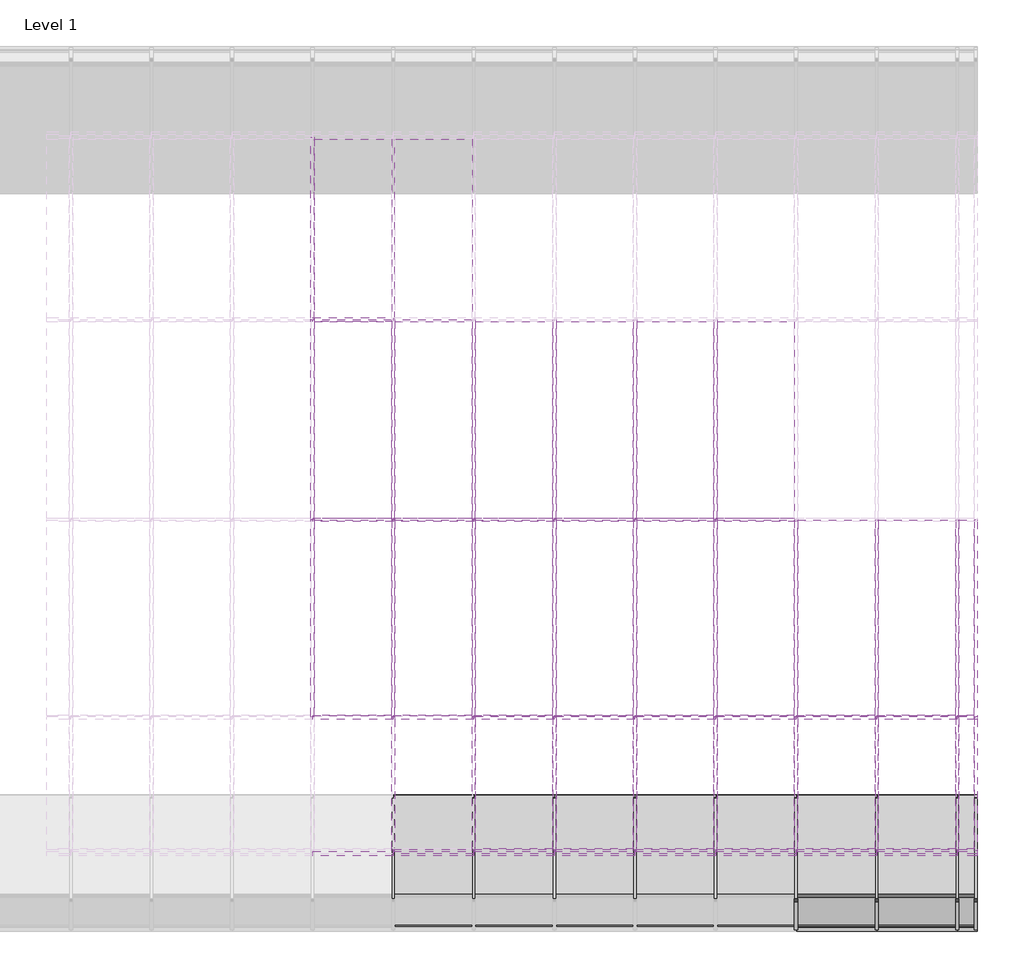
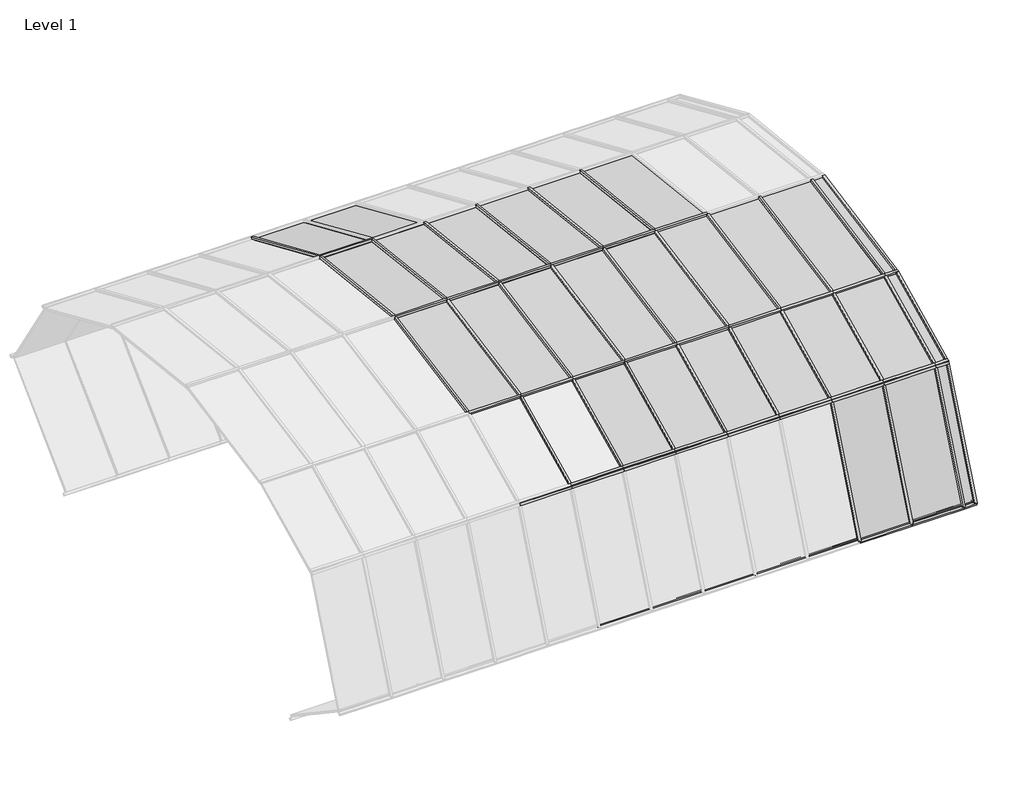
# One storey, part 21 of 23: 83 members, 35 plates.
"""IFC4 building model written with IfcOpenShell, lengths in millimetres."""

from ifc_helpers import new_model, si_unit, origin, place, context, project, spatial, transform, mapped, element, save
from components import member_68981e21, member_e752087b, member_3e1f1dd8, member_fea202f7, member_0f8f75f6, member_42213d33, member_1ddaab60, member_88d46f17, member_14e241b9, member_67cfadff, member_309acb9e, member_1d69e541, member_934386c6, system_panel_glazed_51f493bd, system_panel_glazed_6e806f8e, system_panel_glazed_a1f64e1d, system_panel_glazed_8cafdc8f, system_panel_glazed_3c61d676, system_panel_glazed_a617cdeb, system_panel_glazed_3957fabc, system_panel_glazed_e36701dd

model = new_model("IFC4")

# Units and contexts
model_context = context("Model", 3, world=origin())
ifc_project = project(units=[si_unit("LENGTHUNIT", "METRE", prefix="MILLI")], contexts=[model_context])

# Site, building, storey
site = spatial("IfcSite", under=ifc_project)
building = spatial("IfcBuilding", under=site)
storey = spatial("IfcBuildingStorey", under=building, Name="Level 1", Elevation=0.0)

# Members
placement = place(None, origin())
member_shape = member_68981e21(model_context)
element("IfcMember", 1, ObjectType="Rectangular Mullion : 1\" Square", at=placement, inside=storey, context=model_context, shape_type="MappedRepresentation", body=[
    mapped(member_shape, transform((1059.8500186, 2539.8807303, 0.0), x_axis=(0.0, 0.8307182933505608, -0.5566930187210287), y_axis=(0.0, -0.5566930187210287, -0.8307182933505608), z_axis=(-1.0, 0.0, 0.0))),
])
element("IfcMember", 2, ObjectType="Rectangular Mullion : 1\" Square", at=placement, inside=storey, context=model_context, shape_type="MappedRepresentation", body=[
    mapped(member_shape, transform((1669.4500186, 2539.8807303, 0.0), x_axis=(0.0, 0.8307182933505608, -0.5566930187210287), y_axis=(0.0, -0.5566930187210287, -0.8307182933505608), z_axis=(-1.0, 0.0, 0.0))),
])
element("IfcMember", 3, ObjectType="Rectangular Mullion : 1\" Square", at=placement, inside=storey, context=model_context, shape_type="MappedRepresentation", body=[
    mapped(member_shape, transform((2279.0500186, 2539.8807303, 0.0), x_axis=(0.0, 0.8307182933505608, -0.5566930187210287), y_axis=(0.0, -0.5566930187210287, -0.8307182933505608), z_axis=(-1.0, 0.0, 0.0))),
])
element("IfcMember", 4, ObjectType="Rectangular Mullion : 1\" Square", at=placement, inside=storey, context=model_context, shape_type="MappedRepresentation", body=[
    mapped(member_shape, transform((2888.6500186, 2539.8807303, 0.0), x_axis=(0.0, 0.8307182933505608, -0.5566930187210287), y_axis=(0.0, -0.5566930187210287, -0.8307182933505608), z_axis=(-1.0, 0.0, 0.0))),
])
element("IfcMember", 5, ObjectType="Rectangular Mullion : 1\" Square", at=placement, inside=storey, context=model_context, shape_type="MappedRepresentation", body=[
    mapped(member_shape, transform((3498.2500186, 2539.8807303, 0.0), x_axis=(0.0, 0.8307182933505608, -0.5566930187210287), y_axis=(0.0, -0.5566930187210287, -0.8307182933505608), z_axis=(-1.0, 0.0, 0.0))),
])
element("IfcMember", 6, ObjectType="Rectangular Mullion : 1\" Square", at=placement, inside=storey, context=model_context, shape_type="MappedRepresentation", body=[
    mapped(member_shape, transform((4107.8500186, 2539.8807303, 0.0), x_axis=(0.0, 0.8307182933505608, -0.5566930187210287), y_axis=(0.0, -0.5566930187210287, -0.8307182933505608), z_axis=(-1.0, 0.0, 0.0))),
])
element("IfcMember", 7, ObjectType="Rectangular Mullion : 1\" Square", at=placement, inside=storey, context=model_context, shape_type="MappedRepresentation", body=[
    mapped(member_shape, transform((4717.4500186, 2539.8807303, 0.0), x_axis=(0.0, 0.8307182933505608, -0.5566930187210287), y_axis=(0.0, -0.5566930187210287, -0.8307182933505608), z_axis=(-1.0, 0.0, 0.0))),
])
element("IfcMember", 8, ObjectType="Rectangular Mullion : 1\" Square", at=placement, inside=storey, context=model_context, shape_type="MappedRepresentation", body=[
    mapped(member_shape, transform((1059.8500186, 2108.5088854, 2085.6089632), x_axis=(0.0, -0.9009025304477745, -0.43402146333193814), y_axis=(0.0, -0.43402146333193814, 0.9009025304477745), z_axis=(-1.0, 0.0, 0.0))),
])
element("IfcMember", 9, ObjectType="Rectangular Mullion : 1\" Square", at=placement, inside=storey, context=model_context, shape_type="MappedRepresentation", body=[
    mapped(member_shape, transform((1669.4500186, 2108.5088854, 2085.6089632), x_axis=(0.0, -0.9009025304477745, -0.43402146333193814), y_axis=(0.0, -0.43402146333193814, 0.9009025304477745), z_axis=(-1.0, 0.0, 0.0))),
])
element("IfcMember", 10, ObjectType="Rectangular Mullion : 1\" Square", at=placement, inside=storey, context=model_context, shape_type="MappedRepresentation", body=[
    mapped(member_shape, transform((2279.0500186, 2108.5088854, 2085.6089632), x_axis=(0.0, -0.9009025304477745, -0.43402146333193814), y_axis=(0.0, -0.43402146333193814, 0.9009025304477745), z_axis=(-1.0, 0.0, 0.0))),
])
element("IfcMember", 11, ObjectType="Rectangular Mullion : 1\" Square", at=placement, inside=storey, context=model_context, shape_type="MappedRepresentation", body=[
    mapped(member_shape, transform((2888.6500186, 2108.5088854, 2085.6089632), x_axis=(0.0, -0.9009025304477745, -0.43402146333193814), y_axis=(0.0, -0.43402146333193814, 0.9009025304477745), z_axis=(-1.0, 0.0, 0.0))),
])
element("IfcMember", 12, ObjectType="Rectangular Mullion : 1\" Square", at=placement, inside=storey, context=model_context, shape_type="MappedRepresentation", body=[
    mapped(member_shape, transform((3498.2500186, 2108.5088854, 2085.6089632), x_axis=(0.0, -0.9009025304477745, -0.43402146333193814), y_axis=(0.0, -0.43402146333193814, 0.9009025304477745), z_axis=(-1.0, 0.0, 0.0))),
])
element("IfcMember", 13, ObjectType="Rectangular Mullion : 1\" Square", at=placement, inside=storey, context=model_context, shape_type="MappedRepresentation", body=[
    mapped(member_shape, transform((4107.8500186, 2108.5088854, 2085.6089632), x_axis=(0.0, -0.9009025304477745, -0.43402146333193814), y_axis=(0.0, -0.43402146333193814, 0.9009025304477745), z_axis=(-1.0, 0.0, 0.0))),
])
element("IfcMember", 14, ObjectType="Rectangular Mullion : 1\" Square", at=placement, inside=storey, context=model_context, shape_type="MappedRepresentation", body=[
    mapped(member_shape, transform((4717.4500186, 2108.5088854, 2085.6089632), x_axis=(0.0, -0.9009025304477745, -0.43402146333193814), y_axis=(0.0, -0.43402146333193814, 0.9009025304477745), z_axis=(-1.0, 0.0, 0.0))),
])
member_2_shape = member_e752087b(model_context)
element("IfcMember", 15, ObjectType="Rectangular Mullion : 1\" Square", at=placement, inside=storey, context=model_context, shape_type="MappedRepresentation", body=[
    mapped(member_2_shape, transform((5327.0500186, 2539.8807303, 0.0), x_axis=(0.0, 0.8307182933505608, -0.5566930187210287), y_axis=(0.0, -0.5566930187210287, -0.8307182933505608), z_axis=(-1.0, 0.0, 0.0))),
])
element("IfcMember", 16, ObjectType="Rectangular Mullion : 1\" Square", at=placement, inside=storey, context=model_context, shape_type="MappedRepresentation", body=[
    mapped(member_2_shape, transform((5327.0500186, 2108.5088854, 2085.6089632), x_axis=(0.0, -0.9009025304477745, -0.43402146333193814), y_axis=(0.0, -0.43402146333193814, 0.9009025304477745), z_axis=(-1.0, 0.0, 0.0))),
])
member_3_shape = member_3e1f1dd8(model_context)
element("IfcMember", 17, ObjectType="Rectangular Mullion : 1\" Square", at=placement, inside=storey, context=model_context, shape_type="MappedRepresentation", body=[
    mapped(member_3_shape, transform((4107.8500186, 1534.1192339, 673.9955146), x_axis=(0.0, 0.38018576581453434, -0.9249101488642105), y_axis=(0.0, -0.9249101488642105, -0.38018576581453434), z_axis=(-1.0, 0.0, 0.0))),
])
element("IfcMember", 18, ObjectType="Rectangular Mullion : 1\" Square", at=placement, inside=storey, context=model_context, shape_type="MappedRepresentation", body=[
    mapped(member_3_shape, transform((4717.4500186, 1534.1192339, 673.9955146), x_axis=(0.0, 0.38018576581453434, -0.9249101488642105), y_axis=(0.0, -0.9249101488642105, -0.38018576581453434), z_axis=(-1.0, 0.0, 0.0))),
])
element("IfcMember", 19, ObjectType="Rectangular Mullion : 1\" Square", at=placement, inside=storey, context=model_context, shape_type="MappedRepresentation", body=[
    mapped(member_3_shape, transform((450.2500186, 4631.6132499, 2864.1651971), x_axis=(0.0, -0.9992773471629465, -0.038010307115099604), y_axis=(0.0, -0.038010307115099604, 0.9992773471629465), z_axis=(-1.0, 0.0, 0.0))),
])
element("IfcMember", 20, ObjectType="Rectangular Mullion : 1\" Square", at=placement, inside=storey, context=model_context, shape_type="MappedRepresentation", body=[
    mapped(member_3_shape, transform((1059.8500186, 4631.6132499, 2864.1651971), x_axis=(0.0, -0.9992773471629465, -0.038010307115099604), y_axis=(0.0, -0.038010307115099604, 0.9992773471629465), z_axis=(-1.0, 0.0, 0.0))),
])
element("IfcMember", 21, ObjectType="Rectangular Mullion : 1\" Square", at=placement, inside=storey, context=model_context, shape_type="MappedRepresentation", body=[
    mapped(member_3_shape, transform((1669.4500186, 4631.6132499, 2864.1651971), x_axis=(0.0, -0.9992773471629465, -0.038010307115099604), y_axis=(0.0, -0.038010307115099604, 0.9992773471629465), z_axis=(-1.0, 0.0, 0.0))),
])
element("IfcMember", 22, ObjectType="Rectangular Mullion : 1\" Square", at=placement, inside=storey, context=model_context, shape_type="MappedRepresentation", body=[
    mapped(member_3_shape, transform((2279.0500186, 4631.6132499, 2864.1651971), x_axis=(0.0, -0.9992773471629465, -0.038010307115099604), y_axis=(0.0, -0.038010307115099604, 0.9992773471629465), z_axis=(-1.0, 0.0, 0.0))),
])
element("IfcMember", 23, ObjectType="Rectangular Mullion : 1\" Square", at=placement, inside=storey, context=model_context, shape_type="MappedRepresentation", body=[
    mapped(member_3_shape, transform((2888.6500186, 4631.6132499, 2864.1651971), x_axis=(0.0, -0.9992773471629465, -0.038010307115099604), y_axis=(0.0, -0.038010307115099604, 0.9992773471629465), z_axis=(-1.0, 0.0, 0.0))),
])
element("IfcMember", 24, ObjectType="Rectangular Mullion : 1\" Square", at=placement, inside=storey, context=model_context, shape_type="MappedRepresentation", body=[
    mapped(member_3_shape, transform((3498.2500186, 4631.6132499, 2864.1651971), x_axis=(0.0, -0.9992773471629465, -0.038010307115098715), y_axis=(0.0, -0.038010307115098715, 0.9992773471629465), z_axis=(-1.0, 0.0, 0.0))),
])
element("IfcMember", 25, ObjectType="Rectangular Mullion : 1\" Square", at=placement, inside=storey, context=model_context, shape_type="MappedRepresentation", body=[
    mapped(member_3_shape, transform((450.2500186, 3134.3722562, 2579.8319299), x_axis=(0.0, -0.9436447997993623, -0.3309599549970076), y_axis=(0.0, -0.3309599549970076, 0.9436447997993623), z_axis=(-1.0, 0.0, 0.0))),
])
element("IfcMember", 26, ObjectType="Rectangular Mullion : 1\" Square", at=placement, inside=storey, context=model_context, shape_type="MappedRepresentation", body=[
    mapped(member_3_shape, transform((1059.8500186, 3134.3722562, 2579.8319299), x_axis=(0.0, -0.9436447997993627, -0.33095995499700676), y_axis=(0.0, -0.33095995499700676, 0.9436447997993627), z_axis=(-1.0, 0.0, 0.0))),
])
element("IfcMember", 27, ObjectType="Rectangular Mullion : 1\" Square", at=placement, inside=storey, context=model_context, shape_type="MappedRepresentation", body=[
    mapped(member_3_shape, transform((1669.4500186, 3134.3722562, 2579.8319299), x_axis=(0.0, -0.9436447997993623, -0.3309599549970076), y_axis=(0.0, -0.3309599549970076, 0.9436447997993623), z_axis=(-1.0, 0.0, 0.0))),
])
element("IfcMember", 28, ObjectType="Rectangular Mullion : 1\" Square", at=placement, inside=storey, context=model_context, shape_type="MappedRepresentation", body=[
    mapped(member_3_shape, transform((2279.0500186, 3134.3722562, 2579.8319299), x_axis=(0.0, -0.9436447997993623, -0.3309599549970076), y_axis=(0.0, -0.3309599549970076, 0.9436447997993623), z_axis=(-1.0, 0.0, 0.0))),
])
element("IfcMember", 29, ObjectType="Rectangular Mullion : 1\" Square", at=placement, inside=storey, context=model_context, shape_type="MappedRepresentation", body=[
    mapped(member_3_shape, transform((2888.6500186, 3134.3722562, 2579.8319299), x_axis=(0.0, -0.9436447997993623, -0.3309599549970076), y_axis=(0.0, -0.3309599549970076, 0.9436447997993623), z_axis=(-1.0, 0.0, 0.0))),
])
element("IfcMember", 30, ObjectType="Rectangular Mullion : 1\" Square", at=placement, inside=storey, context=model_context, shape_type="MappedRepresentation", body=[
    mapped(member_3_shape, transform((3498.2500186, 3134.3722562, 2579.8319299), x_axis=(0.0, -0.9436447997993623, -0.3309599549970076), y_axis=(0.0, -0.3309599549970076, 0.9436447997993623), z_axis=(-1.0, 0.0, 0.0))),
])
element("IfcMember", 31, ObjectType="Rectangular Mullion : 1\" Square", at=placement, inside=storey, context=model_context, shape_type="MappedRepresentation", body=[
    mapped(member_3_shape, transform((4107.8500186, 3134.3722562, 2579.8319299), x_axis=(0.0, -0.9436447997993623, -0.3309599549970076), y_axis=(0.0, -0.3309599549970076, 0.9436447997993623), z_axis=(-1.0, 0.0, 0.0))),
])
element("IfcMember", 32, ObjectType="Rectangular Mullion : 1\" Square", at=placement, inside=storey, context=model_context, shape_type="MappedRepresentation", body=[
    mapped(member_3_shape, transform((4717.4500186, 3134.3722562, 2579.8319299), x_axis=(0.0, -0.9436447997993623, -0.3309599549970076), y_axis=(0.0, -0.3309599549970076, 0.9436447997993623), z_axis=(-1.0, 0.0, 0.0))),
])
member_4_shape = member_fea202f7(model_context)
element("IfcMember", 33, ObjectType="Rectangular Mullion : 1\" Square", at=placement, inside=storey, context=model_context, shape_type="MappedRepresentation", body=[
    mapped(member_4_shape, transform((5327.0500186, 1534.1192339, 673.9955146), x_axis=(0.0, 0.38018576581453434, -0.9249101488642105), y_axis=(0.0, -0.9249101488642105, -0.38018576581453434), z_axis=(-1.0, 0.0, 0.0))),
])
element("IfcMember", 34, ObjectType="Rectangular Mullion : 1\" Square", at=placement, inside=storey, context=model_context, shape_type="MappedRepresentation", body=[
    mapped(member_4_shape, transform((5327.0500186, 3134.3722562, 2579.8319299), x_axis=(0.0, -0.9436447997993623, -0.3309599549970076), y_axis=(0.0, -0.3309599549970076, 0.9436447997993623), z_axis=(-1.0, 0.0, 0.0))),
])
element("IfcMember", 35, ObjectType="Rectangular Mullion : 1\" Square", at=placement, inside=storey, context=model_context, shape_type="MappedRepresentation", body=[
    mapped(member_2_shape, transform((5479.4500186, 2108.5088854, 2085.6089632), x_axis=(0.0, 0.37689609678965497, 0.9262555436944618), y_axis=(0.0, -0.9262555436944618, 0.37689609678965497), z_axis=(1.0, 0.0, 0.0))),
])
element("IfcMember", 36, ObjectType="Rectangular Mullion : 1\" Square", at=placement, inside=storey, context=model_context, shape_type="MappedRepresentation", body=[
    mapped(member_shape, transform((1059.8500186, 2108.5088854, 2085.6089632), x_axis=(0.0, 0.3768960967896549, 0.9262555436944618), y_axis=(0.0, -0.9262555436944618, 0.3768960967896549), z_axis=(1.0, 0.0, 0.0))),
])
element("IfcMember", 37, ObjectType="Rectangular Mullion : 1\" Square", at=placement, inside=storey, context=model_context, shape_type="MappedRepresentation", body=[
    mapped(member_shape, transform((1669.4500186, 2108.5088854, 2085.6089632), x_axis=(0.0, 0.3768960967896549, 0.9262555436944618), y_axis=(0.0, -0.9262555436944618, 0.3768960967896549), z_axis=(1.0, 0.0, 0.0))),
])
element("IfcMember", 38, ObjectType="Rectangular Mullion : 1\" Square", at=placement, inside=storey, context=model_context, shape_type="MappedRepresentation", body=[
    mapped(member_shape, transform((2279.0500186, 2108.5088854, 2085.6089632), x_axis=(0.0, 0.3768960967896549, 0.9262555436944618), y_axis=(0.0, -0.9262555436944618, 0.3768960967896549), z_axis=(1.0, 0.0, 0.0))),
])
element("IfcMember", 39, ObjectType="Rectangular Mullion : 1\" Square", at=placement, inside=storey, context=model_context, shape_type="MappedRepresentation", body=[
    mapped(member_shape, transform((2888.6500186, 2108.5088854, 2085.6089632), x_axis=(0.0, 0.3768960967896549, 0.9262555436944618), y_axis=(0.0, -0.9262555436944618, 0.3768960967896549), z_axis=(1.0, 0.0, 0.0))),
])
element("IfcMember", 40, ObjectType="Rectangular Mullion : 1\" Square", at=placement, inside=storey, context=model_context, shape_type="MappedRepresentation", body=[
    mapped(member_shape, transform((3498.2500186, 2108.5088854, 2085.6089632), x_axis=(0.0, 0.3768960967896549, 0.9262555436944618), y_axis=(0.0, -0.9262555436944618, 0.3768960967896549), z_axis=(1.0, 0.0, 0.0))),
])
element("IfcMember", 41, ObjectType="Rectangular Mullion : 1\" Square", at=placement, inside=storey, context=model_context, shape_type="MappedRepresentation", body=[
    mapped(member_shape, transform((4107.8500186, 2108.5088854, 2085.6089632), x_axis=(0.0, 0.3768960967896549, 0.9262555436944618), y_axis=(0.0, -0.9262555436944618, 0.3768960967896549), z_axis=(1.0, 0.0, 0.0))),
])
element("IfcMember", 42, ObjectType="Rectangular Mullion : 1\" Square", at=placement, inside=storey, context=model_context, shape_type="MappedRepresentation", body=[
    mapped(member_shape, transform((4717.4500186, 2108.5088854, 2085.6089632), x_axis=(0.0, 0.3768960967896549, 0.9262555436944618), y_axis=(0.0, -0.9262555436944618, 0.3768960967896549), z_axis=(1.0, 0.0, 0.0))),
])
element("IfcMember", 43, ObjectType="Rectangular Mullion : 1\" Square", at=placement, inside=storey, context=model_context, shape_type="MappedRepresentation", body=[
    mapped(member_shape, transform((5327.0500186, 2108.5088854, 2085.6089632), x_axis=(0.0, 0.3768960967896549, 0.9262555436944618), y_axis=(0.0, -0.9262555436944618, 0.3768960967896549), z_axis=(1.0, 0.0, 0.0))),
])
element("IfcMember", 44, ObjectType="Rectangular Mullion : 1\" Square", at=placement, inside=storey, context=model_context, shape_type="MappedRepresentation", body=[
    mapped(member_3_shape, transform((450.2500186, 6146.1274349, 2694.3924567), x_axis=(0.0, -0.9660596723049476, 0.258319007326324), y_axis=(0.0, 0.258319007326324, 0.9660596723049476), z_axis=(-1.0, 0.0, 0.0))),
])
member_5_shape = member_0f8f75f6(model_context)
element("IfcMember", 45, ObjectType="Rectangular Mullion : 1\" Square", at=placement, inside=storey, context=model_context, shape_type="MappedRepresentation", body=[
    mapped(member_5_shape, transform((1059.8500186, 2518.7804857, 14.1400027), x_axis=(1.0, 0.0, 0.0), y_axis=(0.0, -0.5566930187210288, -0.8307182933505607), z_axis=(0.0, 0.8307182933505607, -0.5566930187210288))),
])
element("IfcMember", 46, ObjectType="Rectangular Mullion : 1\" Square", at=placement, inside=storey, context=model_context, shape_type="MappedRepresentation", body=[
    mapped(member_5_shape, transform((1669.4500186, 2518.7804857, 14.1400027), x_axis=(1.0, 0.0, 0.0), y_axis=(0.0, -0.5566930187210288, -0.8307182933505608), z_axis=(0.0, 0.8307182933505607, -0.5566930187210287))),
])
element("IfcMember", 47, ObjectType="Rectangular Mullion : 1\" Square", at=placement, inside=storey, context=model_context, shape_type="MappedRepresentation", body=[
    mapped(member_5_shape, transform((2279.0500186, 2518.7804857, 14.1400027), x_axis=(1.0, 0.0, 0.0), y_axis=(0.0, -0.5566930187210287, -0.8307182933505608), z_axis=(0.0, 0.8307182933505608, -0.5566930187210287))),
])
element("IfcMember", 48, ObjectType="Rectangular Mullion : 1\" Square", at=placement, inside=storey, context=model_context, shape_type="MappedRepresentation", body=[
    mapped(member_5_shape, transform((2888.6500186, 2518.7804857, 14.1400027), x_axis=(1.0, 0.0, 0.0), y_axis=(0.0, -0.5566930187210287, -0.8307182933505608), z_axis=(0.0, 0.8307182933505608, -0.5566930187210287))),
])
element("IfcMember", 49, ObjectType="Rectangular Mullion : 1\" Square", at=placement, inside=storey, context=model_context, shape_type="MappedRepresentation", body=[
    mapped(member_5_shape, transform((3498.2500186, 2518.7804857, 14.1400027), x_axis=(1.0, 0.0, 0.0), y_axis=(0.0, -0.5566930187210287, -0.8307182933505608), z_axis=(0.0, 0.8307182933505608, -0.5566930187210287))),
])
element("IfcMember", 50, ObjectType="Rectangular Mullion : 1\" Square", at=placement, inside=storey, context=model_context, shape_type="MappedRepresentation", body=[
    mapped(member_5_shape, transform((4107.8500186, 2518.7804857, 14.1400027), x_axis=(1.0, 0.0, 0.0), y_axis=(0.0, -0.5566930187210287, -0.8307182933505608), z_axis=(0.0, 0.8307182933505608, -0.5566930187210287))),
])
element("IfcMember", 51, ObjectType="Rectangular Mullion : 1\" Square", at=placement, inside=storey, context=model_context, shape_type="MappedRepresentation", body=[
    mapped(member_5_shape, transform((4717.4500186, 2518.7804857, 14.1400027), x_axis=(1.0, 0.0, 0.0), y_axis=(0.0, -0.5566930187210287, -0.8307182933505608), z_axis=(0.0, 0.8307182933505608, -0.5566930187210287))),
])
member_6_shape = member_42213d33(model_context)
element("IfcMember", 52, ObjectType="Rectangular Mullion : 1\" Square", at=placement, inside=storey, context=model_context, shape_type="MappedRepresentation", body=[
    mapped(member_6_shape, transform((4107.8500186, 1538.9058143, 685.75896), x_axis=(1.0, 0.0, 0.0), y_axis=(0.0, -0.9262555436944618, 0.376896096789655), z_axis=(0.0, -0.37689609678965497, -0.9262555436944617))),
])
element("IfcMember", 53, ObjectType="Rectangular Mullion : 1\" Square", at=placement, inside=storey, context=model_context, shape_type="MappedRepresentation", body=[
    mapped(member_6_shape, transform((4717.4500186, 1538.9058143, 685.75896), x_axis=(1.0, 0.0, 0.0), y_axis=(0.0, -0.9262555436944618, 0.376896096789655), z_axis=(0.0, -0.37689609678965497, -0.9262555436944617))),
])
member_7_shape = member_1ddaab60(model_context)
element("IfcMember", 54, ObjectType="Rectangular Mullion : 1\" Square", at=placement, inside=storey, context=model_context, shape_type="MappedRepresentation", body=[
    mapped(member_7_shape, transform((5479.4500186, 2518.7804857, 14.1400027), x_axis=(1.0, 0.0, 0.0), y_axis=(0.0, -0.5566930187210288, -0.8307182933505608), z_axis=(0.0, 0.8307182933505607, -0.5566930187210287))),
])
element("IfcMember", 55, ObjectType="Rectangular Mullion : 1\" Square", at=placement, inside=storey, context=model_context, shape_type="MappedRepresentation", body=[
    mapped(member_6_shape, transform((5327.0500186, 1538.9058143, 685.75896), x_axis=(1.0, 0.0, 0.0), y_axis=(0.0, -0.9262555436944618, 0.376896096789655), z_axis=(0.0, -0.37689609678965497, -0.9262555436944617))),
])
element("IfcMember", 56, ObjectType="Rectangular Mullion : 1\" Square", at=placement, inside=storey, context=model_context, shape_type="MappedRepresentation", body=[
    mapped(member_5_shape, transform((5327.0500186, 2518.7804857, 14.1400027), x_axis=(1.0, 0.0, 0.0), y_axis=(0.0, -0.5566930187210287, -0.8307182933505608), z_axis=(0.0, 0.8307182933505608, -0.5566930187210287))),
])
member_8_shape = member_88d46f17(model_context)
element("IfcMember", 57, ObjectType="Rectangular Mullion : 1\" Square", at=placement, inside=storey, context=model_context, shape_type="MappedRepresentation", body=[
    mapped(member_8_shape, transform((5479.4500186, 1538.9058143, 685.75896), x_axis=(1.0, 0.0, 0.0), y_axis=(0.0, -0.9262555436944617, 0.37689609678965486), z_axis=(0.0, -0.37689609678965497, -0.926255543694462))),
])
member_9_shape = member_14e241b9(model_context)
element("IfcMember", 58, ObjectType="Rectangular Mullion : 1\" Square", at=placement, inside=storey, context=model_context, shape_type="MappedRepresentation", body=[
    mapped(member_9_shape, transform((1059.8500186, 2131.3918096, 2096.6331083), x_axis=(1.0, 0.0, 0.0), y_axis=(0.0, -0.4340214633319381, 0.9009025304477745), z_axis=(0.0, -0.9009025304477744, -0.43402146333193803))),
])
element("IfcMember", 59, ObjectType="Rectangular Mullion : 1\" Square", at=placement, inside=storey, context=model_context, shape_type="MappedRepresentation", body=[
    mapped(member_9_shape, transform((1669.4500186, 2131.3918096, 2096.6331083), x_axis=(1.0, 0.0, 0.0), y_axis=(0.0, -0.43402146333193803, 0.9009025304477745), z_axis=(0.0, -0.9009025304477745, -0.43402146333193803))),
])
element("IfcMember", 60, ObjectType="Rectangular Mullion : 1\" Square", at=placement, inside=storey, context=model_context, shape_type="MappedRepresentation", body=[
    mapped(member_9_shape, transform((2279.0500186, 2131.3918096, 2096.6331083), x_axis=(1.0, 0.0, 0.0), y_axis=(0.0, -0.43402146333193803, 0.9009025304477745), z_axis=(0.0, -0.9009025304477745, -0.43402146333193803))),
])
element("IfcMember", 61, ObjectType="Rectangular Mullion : 1\" Square", at=placement, inside=storey, context=model_context, shape_type="MappedRepresentation", body=[
    mapped(member_9_shape, transform((2888.6500186, 2131.3918096, 2096.6331083), x_axis=(1.0, 0.0, 0.0), y_axis=(0.0, -0.43402146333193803, 0.9009025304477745), z_axis=(0.0, -0.9009025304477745, -0.43402146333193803))),
])
element("IfcMember", 62, ObjectType="Rectangular Mullion : 1\" Square", at=placement, inside=storey, context=model_context, shape_type="MappedRepresentation", body=[
    mapped(member_9_shape, transform((3498.2500186, 2131.3918096, 2096.6331083), x_axis=(1.0, 0.0, 0.0), y_axis=(0.0, -0.43402146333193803, 0.9009025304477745), z_axis=(0.0, -0.9009025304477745, -0.43402146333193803))),
])
element("IfcMember", 63, ObjectType="Rectangular Mullion : 1\" Square", at=placement, inside=storey, context=model_context, shape_type="MappedRepresentation", body=[
    mapped(member_9_shape, transform((4107.8500186, 2131.3918096, 2096.6331083), x_axis=(1.0, 0.0, 0.0), y_axis=(0.0, -0.43402146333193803, 0.9009025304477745), z_axis=(0.0, -0.9009025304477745, -0.43402146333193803))),
])
element("IfcMember", 64, ObjectType="Rectangular Mullion : 1\" Square", at=placement, inside=storey, context=model_context, shape_type="MappedRepresentation", body=[
    mapped(member_9_shape, transform((4717.4500186, 2131.3918096, 2096.6331083), x_axis=(1.0, 0.0, 0.0), y_axis=(0.0, -0.43402146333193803, 0.9009025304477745), z_axis=(0.0, -0.9009025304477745, -0.43402146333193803))),
])
member_10_shape = member_67cfadff(model_context)
element("IfcMember", 65, ObjectType="Rectangular Mullion : 1\" Square", at=placement, inside=storey, context=model_context, shape_type="MappedRepresentation", body=[
    mapped(member_10_shape, transform((450.2500186, 6157.7701444, 2689.3192609), x_axis=(1.0, 0.0, 0.0), y_axis=(0.0, 0.39946423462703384, 0.9167487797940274), z_axis=(0.0, -0.9167487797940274, 0.39946423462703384))),
])
member_11_shape = member_309acb9e(model_context)
element("IfcMember", 66, ObjectType="Rectangular Mullion : 1\" Square", at=placement, inside=storey, context=model_context, shape_type="MappedRepresentation", body=[
    mapped(member_11_shape, transform((450.2500186, 4644.2342014, 2862.7504243), x_axis=(1.0, 0.0, 0.0), y_axis=(0.0, 0.1113994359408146, 0.9937757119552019), z_axis=(0.0, -0.9937757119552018, 0.11139943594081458))),
])
element("IfcMember", 67, ObjectType="Rectangular Mullion : 1\" Square", at=placement, inside=storey, context=model_context, shape_type="MappedRepresentation", body=[
    mapped(member_11_shape, transform((1059.8500186, 4644.2342014, 2862.7504243), x_axis=(1.0, 0.0, 0.0), y_axis=(0.0, 0.1113994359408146, 0.9937757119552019), z_axis=(0.0, -0.9937757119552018, 0.11139943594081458))),
])
element("IfcMember", 68, ObjectType="Rectangular Mullion : 1\" Square", at=placement, inside=storey, context=model_context, shape_type="MappedRepresentation", body=[
    mapped(member_11_shape, transform((1669.4500186, 4644.2342014, 2862.7504243), x_axis=(1.0, 0.0, 0.0), y_axis=(0.0, 0.1113994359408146, 0.9937757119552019), z_axis=(0.0, -0.9937757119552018, 0.11139943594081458))),
])
element("IfcMember", 69, ObjectType="Rectangular Mullion : 1\" Square", at=placement, inside=storey, context=model_context, shape_type="MappedRepresentation", body=[
    mapped(member_11_shape, transform((2279.0500186, 4644.2342014, 2862.7504243), x_axis=(1.0, 0.0, 0.0), y_axis=(0.0, 0.1113994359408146, 0.9937757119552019), z_axis=(0.0, -0.9937757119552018, 0.11139943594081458))),
])
element("IfcMember", 70, ObjectType="Rectangular Mullion : 1\" Square", at=placement, inside=storey, context=model_context, shape_type="MappedRepresentation", body=[
    mapped(member_11_shape, transform((2888.6500186, 4644.2342014, 2862.7504243), x_axis=(1.0, 0.0, 0.0), y_axis=(0.0, 0.1113994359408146, 0.9937757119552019), z_axis=(0.0, -0.9937757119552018, 0.11139943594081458))),
])
element("IfcMember", 71, ObjectType="Rectangular Mullion : 1\" Square", at=placement, inside=storey, context=model_context, shape_type="MappedRepresentation", body=[
    mapped(member_11_shape, transform((3498.2500186, 4644.2342014, 2862.7504243), x_axis=(1.0, 0.0, 0.0), y_axis=(0.0, 0.11139943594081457, 0.9937757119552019), z_axis=(0.0, -0.9937757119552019, 0.11139943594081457))),
])
element("IfcMember", 72, ObjectType="Rectangular Mullion : 1\" Square", at=placement, inside=storey, context=model_context, shape_type="MappedRepresentation", body=[
    mapped(member_11_shape, transform((450.2500186, 3146.8492645, 2582.2013738), x_axis=(1.0, 0.0, 0.0), y_axis=(0.0, -0.18657038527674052, 0.9824415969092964), z_axis=(0.0, -0.9824415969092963, -0.1865703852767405))),
])
element("IfcMember", 73, ObjectType="Rectangular Mullion : 1\" Square", at=placement, inside=storey, context=model_context, shape_type="MappedRepresentation", body=[
    mapped(member_11_shape, transform((1059.8500186, 3146.8492645, 2582.2013738), x_axis=(1.0, 0.0, 0.0), y_axis=(0.0, -0.18657038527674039, 0.9824415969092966), z_axis=(0.0, -0.9824415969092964, -0.18657038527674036))),
])
element("IfcMember", 74, ObjectType="Rectangular Mullion : 1\" Square", at=placement, inside=storey, context=model_context, shape_type="MappedRepresentation", body=[
    mapped(member_11_shape, transform((1669.4500186, 3146.8492645, 2582.2013738), x_axis=(1.0, 0.0, 0.0), y_axis=(0.0, -0.18657038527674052, 0.9824415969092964), z_axis=(0.0, -0.9824415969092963, -0.1865703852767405))),
])
element("IfcMember", 75, ObjectType="Rectangular Mullion : 1\" Square", at=placement, inside=storey, context=model_context, shape_type="MappedRepresentation", body=[
    mapped(member_11_shape, transform((2279.0500186, 3146.8492645, 2582.2013738), x_axis=(1.0, 0.0, 0.0), y_axis=(0.0, -0.18657038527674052, 0.9824415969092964), z_axis=(0.0, -0.9824415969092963, -0.1865703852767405))),
])
element("IfcMember", 76, ObjectType="Rectangular Mullion : 1\" Square", at=placement, inside=storey, context=model_context, shape_type="MappedRepresentation", body=[
    mapped(member_11_shape, transform((2888.6500186, 3146.8492645, 2582.2013738), x_axis=(1.0, 0.0, 0.0), y_axis=(0.0, -0.18657038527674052, 0.9824415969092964), z_axis=(0.0, -0.9824415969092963, -0.1865703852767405))),
])
element("IfcMember", 77, ObjectType="Rectangular Mullion : 1\" Square", at=placement, inside=storey, context=model_context, shape_type="MappedRepresentation", body=[
    mapped(member_11_shape, transform((3498.2500186, 3146.8492645, 2582.2013738), x_axis=(1.0, 0.0, 0.0), y_axis=(0.0, -0.1865703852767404, 0.9824415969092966), z_axis=(0.0, -0.9824415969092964, -0.18657038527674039))),
])
element("IfcMember", 78, ObjectType="Rectangular Mullion : 1\" Square", at=placement, inside=storey, context=model_context, shape_type="MappedRepresentation", body=[
    mapped(member_11_shape, transform((4107.8500186, 3146.8492645, 2582.2013738), x_axis=(1.0, 0.0, 0.0), y_axis=(0.0, -0.1865703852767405, 0.9824415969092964), z_axis=(0.0, -0.9824415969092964, -0.1865703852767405))),
])
element("IfcMember", 79, ObjectType="Rectangular Mullion : 1\" Square", at=placement, inside=storey, context=model_context, shape_type="MappedRepresentation", body=[
    mapped(member_11_shape, transform((4717.4500186, 3146.8492645, 2582.2013738), x_axis=(1.0, 0.0, 0.0), y_axis=(0.0, -0.1865703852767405, 0.9824415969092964), z_axis=(0.0, -0.9824415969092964, -0.1865703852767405))),
])
element("IfcMember", 80, ObjectType="Rectangular Mullion : 1\" Square", at=placement, inside=storey, context=model_context, shape_type="MappedRepresentation", body=[
    mapped(member_11_shape, transform((5327.0500186, 3146.8492645, 2582.2013738), x_axis=(1.0, 0.0, 0.0), y_axis=(0.0, -0.1865703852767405, 0.9824415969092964), z_axis=(0.0, -0.9824415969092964, -0.1865703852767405))),
])
element("IfcMember", 81, ObjectType="Rectangular Mullion : 1\" Square", at=placement, inside=storey, context=model_context, shape_type="MappedRepresentation", body=[
    mapped(member_9_shape, transform((5327.0500186, 2131.3918096, 2096.6331083), x_axis=(1.0, 0.0, 0.0), y_axis=(0.0, -0.43402146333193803, 0.9009025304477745), z_axis=(0.0, -0.9009025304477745, -0.43402146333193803))),
])
member_12_shape = member_1d69e541(model_context)
element("IfcMember", 82, ObjectType="Rectangular Mullion : 1\" Square", at=placement, inside=storey, context=model_context, shape_type="MappedRepresentation", body=[
    mapped(member_12_shape, transform((5479.4500186, 3146.8492645, 2582.2013738), x_axis=(1.0, 0.0, 0.0), y_axis=(0.0, -0.1865703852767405, 0.9824415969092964), z_axis=(0.0, -0.9824415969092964, -0.1865703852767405))),
])
member_13_shape = member_934386c6(model_context)
element("IfcMember", 83, ObjectType="Rectangular Mullion : 1\" Square", at=placement, inside=storey, context=model_context, shape_type="MappedRepresentation", body=[
    mapped(member_13_shape, transform((5479.4500186, 2131.3918096, 2096.6331083), x_axis=(1.0, 0.0, 0.0), y_axis=(0.0, -0.43402146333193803, 0.9009025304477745), z_axis=(0.0, -0.9009025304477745, -0.43402146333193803))),
])

# Plates
system_panel_glazed_shape = system_panel_glazed_51f493bd(model_context)
element("IfcPlate", 84, ObjectType="System Panel : Glazed", at=placement, inside=storey, context=model_context, shape_type="MappedRepresentation", body=[
    mapped(system_panel_glazed_shape, transform((462.9500186, 6838.8686503, 2392.5373078), x_axis=(0.0, -0.9167487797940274, 0.3994642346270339), y_axis=(0.0, -0.3994642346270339, -0.9167487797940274), z_axis=(1.0, 0.0, 0.0))),
])
element("IfcPlate", 85, ObjectType="System Panel : Glazed", at=placement, inside=storey, context=model_context, shape_type="MappedRepresentation", body=[
    mapped(system_panel_glazed_shape, transform((1072.5500186, 6838.8686503, 2392.5373078), x_axis=(0.0, -0.9167487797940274, 0.3994642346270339), y_axis=(0.0, -0.3994642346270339, -0.9167487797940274), z_axis=(1.0, 0.0, 0.0))),
])
element("IfcPlate", 86, ObjectType="System Panel : Glazed", at=placement, inside=storey, context=model_context, shape_type="MappedRepresentation", body=[
    mapped(system_panel_glazed_shape, transform((4120.5500186, 1818.9207694, 1373.9205162), x_axis=(0.0, -0.3768960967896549, -0.9262555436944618), y_axis=(0.0, 0.9262555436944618, -0.3768960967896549), z_axis=(1.0, 0.0, 0.0))),
])
element("IfcPlate", 87, ObjectType="System Panel : Glazed", at=placement, inside=storey, context=model_context, shape_type="MappedRepresentation", body=[
    mapped(system_panel_glazed_shape, transform((4730.1500186, 1818.9207694, 1373.9205162), x_axis=(0.0, -0.3768960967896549, -0.9262555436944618), y_axis=(0.0, 0.9262555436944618, -0.3768960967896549), z_axis=(1.0, 0.0, 0.0))),
])
system_panel_glazed_2_shape = system_panel_glazed_6e806f8e(model_context)
element("IfcPlate", 88, ObjectType="System Panel : Glazed", at=placement, inside=storey, context=model_context, shape_type="MappedRepresentation", body=[
    mapped(system_panel_glazed_2_shape, transform((462.9500186, 5388.8703424, 2779.2788269), x_axis=(0.0, -0.9937757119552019, 0.11139943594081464), y_axis=(0.0, -0.11139943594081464, -0.9937757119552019), z_axis=(1.0, 0.0, 0.0))),
])
element("IfcPlate", 89, ObjectType="System Panel : Glazed", at=placement, inside=storey, context=model_context, shape_type="MappedRepresentation", body=[
    mapped(system_panel_glazed_2_shape, transform((462.9500186, 3882.992753, 2721.9985635), x_axis=(0.0, -0.9824415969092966, -0.18657038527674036), y_axis=(0.0, 0.18657038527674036, -0.9824415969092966), z_axis=(1.0, 0.0, 0.0))),
])
element("IfcPlate", 90, ObjectType="System Panel : Glazed", at=placement, inside=storey, context=model_context, shape_type="MappedRepresentation", body=[
    mapped(system_panel_glazed_2_shape, transform((1072.5500186, 5388.8703424, 2779.2788269), x_axis=(0.0, -0.9937757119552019, 0.11139943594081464), y_axis=(0.0, -0.11139943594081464, -0.9937757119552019), z_axis=(1.0, 0.0, 0.0))),
])
element("IfcPlate", 91, ObjectType="System Panel : Glazed", at=placement, inside=storey, context=model_context, shape_type="MappedRepresentation", body=[
    mapped(system_panel_glazed_2_shape, transform((1072.5500186, 3882.992753, 2721.9985635), x_axis=(0.0, -0.9824415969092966, -0.18657038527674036), y_axis=(0.0, 0.18657038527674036, -0.9824415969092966), z_axis=(1.0, 0.0, 0.0))),
])
element("IfcPlate", 92, ObjectType="System Panel : Glazed", at=placement, inside=storey, context=model_context, shape_type="MappedRepresentation", body=[
    mapped(system_panel_glazed_2_shape, transform((1682.1500186, 5388.8703424, 2779.2788269), x_axis=(0.0, -0.9937757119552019, 0.11139943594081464), y_axis=(0.0, -0.11139943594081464, -0.9937757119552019), z_axis=(1.0, 0.0, 0.0))),
])
element("IfcPlate", 93, ObjectType="System Panel : Glazed", at=placement, inside=storey, context=model_context, shape_type="MappedRepresentation", body=[
    mapped(system_panel_glazed_2_shape, transform((1682.1500186, 3882.992753, 2721.9985635), x_axis=(0.0, -0.9824415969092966, -0.18657038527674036), y_axis=(0.0, 0.18657038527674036, -0.9824415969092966), z_axis=(1.0, 0.0, 0.0))),
])
element("IfcPlate", 94, ObjectType="System Panel : Glazed", at=placement, inside=storey, context=model_context, shape_type="MappedRepresentation", body=[
    mapped(system_panel_glazed_2_shape, transform((2291.7500186, 5388.8703424, 2779.2788269), x_axis=(0.0, -0.9937757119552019, 0.11139943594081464), y_axis=(0.0, -0.11139943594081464, -0.9937757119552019), z_axis=(1.0, 0.0, 0.0))),
])
element("IfcPlate", 95, ObjectType="System Panel : Glazed", at=placement, inside=storey, context=model_context, shape_type="MappedRepresentation", body=[
    mapped(system_panel_glazed_2_shape, transform((2291.7500186, 3882.992753, 2721.9985635), x_axis=(0.0, -0.9824415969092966, -0.18657038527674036), y_axis=(0.0, 0.18657038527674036, -0.9824415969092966), z_axis=(1.0, 0.0, 0.0))),
])
element("IfcPlate", 96, ObjectType="System Panel : Glazed", at=placement, inside=storey, context=model_context, shape_type="MappedRepresentation", body=[
    mapped(system_panel_glazed_2_shape, transform((2901.3500186, 5388.8703424, 2779.2788269), x_axis=(0.0, -0.9937757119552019, 0.11139943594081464), y_axis=(0.0, -0.11139943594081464, -0.9937757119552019), z_axis=(1.0, 0.0, 0.0))),
])
element("IfcPlate", 97, ObjectType="System Panel : Glazed", at=placement, inside=storey, context=model_context, shape_type="MappedRepresentation", body=[
    mapped(system_panel_glazed_2_shape, transform((2901.3500186, 3882.992753, 2721.9985635), x_axis=(0.0, -0.9824415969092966, -0.18657038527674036), y_axis=(0.0, 0.18657038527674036, -0.9824415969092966), z_axis=(1.0, 0.0, 0.0))),
])
element("IfcPlate", 98, ObjectType="System Panel : Glazed", at=placement, inside=storey, context=model_context, shape_type="MappedRepresentation", body=[
    mapped(system_panel_glazed_2_shape, transform((3510.9500186, 5388.8703424, 2779.2788269), x_axis=(0.0, -0.9937757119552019, 0.11139943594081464), y_axis=(0.0, -0.11139943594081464, -0.9937757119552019), z_axis=(1.0, 0.0, 0.0))),
])
element("IfcPlate", 99, ObjectType="System Panel : Glazed", at=placement, inside=storey, context=model_context, shape_type="MappedRepresentation", body=[
    mapped(system_panel_glazed_2_shape, transform((3510.9500186, 3882.992753, 2721.9985635), x_axis=(0.0, -0.9824415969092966, -0.18657038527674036), y_axis=(0.0, 0.18657038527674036, -0.9824415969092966), z_axis=(1.0, 0.0, 0.0))),
])
element("IfcPlate", 100, ObjectType="System Panel : Glazed", at=placement, inside=storey, context=model_context, shape_type="MappedRepresentation", body=[
    mapped(system_panel_glazed_2_shape, transform((4120.5500186, 3882.992753, 2721.9985635), x_axis=(0.0, -0.9824415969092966, -0.18657038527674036), y_axis=(0.0, 0.18657038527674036, -0.9824415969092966), z_axis=(1.0, 0.0, 0.0))),
])
element("IfcPlate", 101, ObjectType="System Panel : Glazed", at=placement, inside=storey, context=model_context, shape_type="MappedRepresentation", body=[
    mapped(system_panel_glazed_2_shape, transform((4730.1500186, 3882.992753, 2721.9985635), x_axis=(0.0, -0.9824415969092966, -0.18657038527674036), y_axis=(0.0, 0.18657038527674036, -0.9824415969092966), z_axis=(1.0, 0.0, 0.0))),
])
system_panel_glazed_3_shape = system_panel_glazed_a1f64e1d(model_context)
element("IfcPlate", 102, ObjectType="System Panel : Glazed", at=placement, inside=storey, context=model_context, shape_type="MappedRepresentation", body=[
    mapped(system_panel_glazed_3_shape, transform((1682.1500186, 2627.1613018, 2335.4764828), x_axis=(0.0, -0.9009025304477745, -0.43402146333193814), y_axis=(0.0, 0.43402146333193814, -0.9009025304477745), z_axis=(1.0, 0.0, 0.0))),
])
element("IfcPlate", 103, ObjectType="System Panel : Glazed", at=placement, inside=storey, context=model_context, shape_type="MappedRepresentation", body=[
    mapped(system_panel_glazed_3_shape, transform((2291.7500186, 2627.1613018, 2335.4764828), x_axis=(0.0, -0.9009025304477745, -0.43402146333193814), y_axis=(0.0, 0.43402146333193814, -0.9009025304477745), z_axis=(1.0, 0.0, 0.0))),
])
element("IfcPlate", 104, ObjectType="System Panel : Glazed", at=placement, inside=storey, context=model_context, shape_type="MappedRepresentation", body=[
    mapped(system_panel_glazed_3_shape, transform((2901.3500186, 2627.1613018, 2335.4764828), x_axis=(0.0, -0.9009025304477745, -0.43402146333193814), y_axis=(0.0, 0.43402146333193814, -0.9009025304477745), z_axis=(1.0, 0.0, 0.0))),
])
element("IfcPlate", 105, ObjectType="System Panel : Glazed", at=placement, inside=storey, context=model_context, shape_type="MappedRepresentation", body=[
    mapped(system_panel_glazed_3_shape, transform((3510.9500186, 2627.1613018, 2335.4764828), x_axis=(0.0, -0.9009025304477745, -0.43402146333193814), y_axis=(0.0, 0.43402146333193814, -0.9009025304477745), z_axis=(1.0, 0.0, 0.0))),
])
element("IfcPlate", 106, ObjectType="System Panel : Glazed", at=placement, inside=storey, context=model_context, shape_type="MappedRepresentation", body=[
    mapped(system_panel_glazed_3_shape, transform((4120.5500186, 2627.1613018, 2335.4764828), x_axis=(0.0, -0.9009025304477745, -0.43402146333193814), y_axis=(0.0, 0.43402146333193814, -0.9009025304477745), z_axis=(1.0, 0.0, 0.0))),
])
element("IfcPlate", 107, ObjectType="System Panel : Glazed", at=placement, inside=storey, context=model_context, shape_type="MappedRepresentation", body=[
    mapped(system_panel_glazed_3_shape, transform((4730.1500186, 2627.1613018, 2335.4764828), x_axis=(0.0, -0.9009025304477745, -0.43402146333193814), y_axis=(0.0, 0.43402146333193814, -0.9009025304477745), z_axis=(1.0, 0.0, 0.0))),
])
system_panel_glazed_4_shape = system_panel_glazed_8cafdc8f(model_context)
element("IfcPlate", 108, ObjectType="System Panel : Glazed", at=placement, inside=storey, context=model_context, shape_type="MappedRepresentation", body=[
    mapped(system_panel_glazed_4_shape, transform((5339.7500186, 1818.9207694, 1373.9205162), x_axis=(0.0, -0.37689609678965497, -0.9262555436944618), y_axis=(0.0, 0.9262555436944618, -0.37689609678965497), z_axis=(1.0, 0.0, 0.0))),
])
system_panel_glazed_5_shape = system_panel_glazed_3c61d676(model_context)
element("IfcPlate", 109, ObjectType="System Panel : Glazed", at=placement, inside=storey, context=model_context, shape_type="MappedRepresentation", body=[
    mapped(system_panel_glazed_5_shape, transform((5339.7500186, 3882.992753, 2721.9985635), x_axis=(0.0, -0.9824415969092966, -0.18657038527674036), y_axis=(0.0, 0.18657038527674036, -0.9824415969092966), z_axis=(1.0, 0.0, 0.0))),
])
system_panel_glazed_6_shape = system_panel_glazed_a617cdeb(model_context)
element("IfcPlate", 110, ObjectType="System Panel : Glazed", at=placement, inside=storey, context=model_context, shape_type="MappedRepresentation", body=[
    mapped(system_panel_glazed_6_shape, transform((5339.7500186, 2627.1613018, 2335.4764828), x_axis=(0.0, -0.9009025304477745, -0.43402146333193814), y_axis=(0.0, 0.43402146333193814, -0.9009025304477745), z_axis=(1.0, 0.0, 0.0))),
])
system_panel_glazed_7_shape = system_panel_glazed_3957fabc(model_context)
element("IfcPlate", 111, ObjectType="System Panel : Glazed", at=placement, inside=storey, context=model_context, shape_type="MappedRepresentation", body=[
    mapped(system_panel_glazed_7_shape, transform((1072.5500186, 2031.7249209, 340.532758), x_axis=(0.0, 0.8307182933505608, -0.5566930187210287), y_axis=(0.0, 0.5566930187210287, 0.8307182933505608), z_axis=(1.0, 0.0, 0.0))),
])
element("IfcPlate", 112, ObjectType="System Panel : Glazed", at=placement, inside=storey, context=model_context, shape_type="MappedRepresentation", body=[
    mapped(system_panel_glazed_7_shape, transform((1682.1500186, 2031.7249209, 340.532758), x_axis=(0.0, 0.8307182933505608, -0.5566930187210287), y_axis=(0.0, 0.5566930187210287, 0.8307182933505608), z_axis=(1.0, 0.0, 0.0))),
])
element("IfcPlate", 113, ObjectType="System Panel : Glazed", at=placement, inside=storey, context=model_context, shape_type="MappedRepresentation", body=[
    mapped(system_panel_glazed_7_shape, transform((2291.7500186, 2031.7249209, 340.532758), x_axis=(0.0, 0.8307182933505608, -0.5566930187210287), y_axis=(0.0, 0.5566930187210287, 0.8307182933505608), z_axis=(1.0, 0.0, 0.0))),
])
element("IfcPlate", 114, ObjectType="System Panel : Glazed", at=placement, inside=storey, context=model_context, shape_type="MappedRepresentation", body=[
    mapped(system_panel_glazed_7_shape, transform((2901.3500186, 2031.7249209, 340.532758), x_axis=(0.0, 0.8307182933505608, -0.5566930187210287), y_axis=(0.0, 0.5566930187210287, 0.8307182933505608), z_axis=(1.0, 0.0, 0.0))),
])
element("IfcPlate", 115, ObjectType="System Panel : Glazed", at=placement, inside=storey, context=model_context, shape_type="MappedRepresentation", body=[
    mapped(system_panel_glazed_7_shape, transform((3510.9500186, 2031.7249209, 340.532758), x_axis=(0.0, 0.8307182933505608, -0.5566930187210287), y_axis=(0.0, 0.5566930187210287, 0.8307182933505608), z_axis=(1.0, 0.0, 0.0))),
])
element("IfcPlate", 116, ObjectType="System Panel : Glazed", at=placement, inside=storey, context=model_context, shape_type="MappedRepresentation", body=[
    mapped(system_panel_glazed_7_shape, transform((4120.5500186, 2031.7249209, 340.532758), x_axis=(0.0, 0.8307182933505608, -0.5566930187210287), y_axis=(0.0, 0.5566930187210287, 0.8307182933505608), z_axis=(1.0, 0.0, 0.0))),
])
element("IfcPlate", 117, ObjectType="System Panel : Glazed", at=placement, inside=storey, context=model_context, shape_type="MappedRepresentation", body=[
    mapped(system_panel_glazed_7_shape, transform((4730.1500186, 2031.7249209, 340.532758), x_axis=(0.0, 0.8307182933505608, -0.5566930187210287), y_axis=(0.0, 0.5566930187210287, 0.8307182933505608), z_axis=(1.0, 0.0, 0.0))),
])
system_panel_glazed_8_shape = system_panel_glazed_e36701dd(model_context)
element("IfcPlate", 118, ObjectType="System Panel : Glazed", at=placement, inside=storey, context=model_context, shape_type="MappedRepresentation", body=[
    mapped(system_panel_glazed_8_shape, transform((5339.7500186, 2031.7249209, 340.532758), x_axis=(0.0, 0.8307182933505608, -0.5566930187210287), y_axis=(0.0, 0.5566930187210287, 0.8307182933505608), z_axis=(1.0, 0.0, 0.0))),
])

save(model, "model.ifc")
